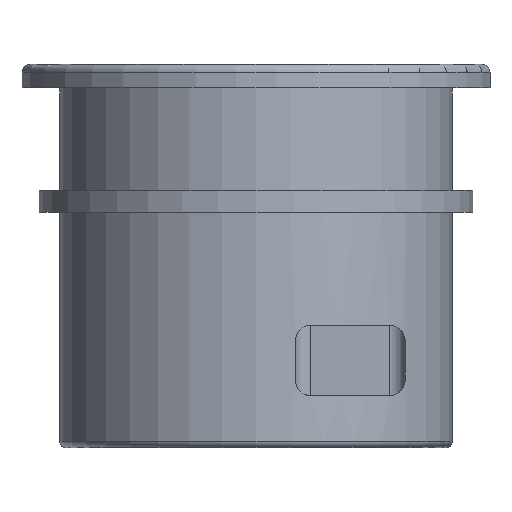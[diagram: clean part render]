
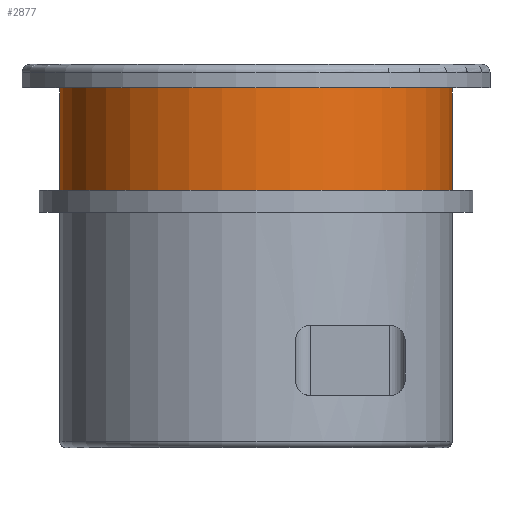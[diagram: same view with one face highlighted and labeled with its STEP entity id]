
A CAD part, front view. The second image highlights one B-rep face of the part: STEP entity #2877.
In plain terms, the highlighted cylindrical face has radius 12.5 mm (diameter 25 mm), a full revolution.
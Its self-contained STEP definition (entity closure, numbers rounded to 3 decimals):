
#1419 = PLANE('',#1420);
#1420 = AXIS2_PLACEMENT_3D('',#1421,#1422,#1423);
#1421 = CARTESIAN_POINT('',(0.,0.,141.));
#1422 = DIRECTION('',(0.,0.,1.));
#1423 = DIRECTION('',(1.,0.,-0.));
#2074 = EDGE_CURVE('',#2075,#2075,#2077,.T.);
#2075 = VERTEX_POINT('',#2076);
#2076 = CARTESIAN_POINT('',(12.5,0.,141.));
#2077 = SURFACE_CURVE('',#2078,(#2083,#2090),.PCURVE_S1.);
#2078 = CIRCLE('',#2079,12.5);
#2079 = AXIS2_PLACEMENT_3D('',#2080,#2081,#2082);
#2080 = CARTESIAN_POINT('',(0.,0.,141.));
#2081 = DIRECTION('',(0.,0.,1.));
#2082 = DIRECTION('',(1.,0.,-0.));
#2083 = PCURVE('',#1419,#2084);
#2084 = DEFINITIONAL_REPRESENTATION('',(#2085),#2089);
#2085 = CIRCLE('',#2086,12.5);
#2086 = AXIS2_PLACEMENT_2D('',#2087,#2088);
#2087 = CARTESIAN_POINT('',(0.,0.));
#2088 = DIRECTION('',(1.,0.));
#2089 = ( GEOMETRIC_REPRESENTATION_CONTEXT(2) 
PARAMETRIC_REPRESENTATION_CONTEXT() REPRESENTATION_CONTEXT('2D SPACE',''
  ) );
#2090 = PCURVE('',#2091,#2096);
#2091 = CYLINDRICAL_SURFACE('',#2092,12.5);
#2092 = AXIS2_PLACEMENT_3D('',#2093,#2094,#2095);
#2093 = CARTESIAN_POINT('',(0.,0.,124.6));
#2094 = DIRECTION('',(0.,0.,1.));
#2095 = DIRECTION('',(1.,0.,-0.));
#2096 = DEFINITIONAL_REPRESENTATION('',(#2097),#2101);
#2097 = LINE('',#2098,#2099);
#2098 = CARTESIAN_POINT('',(0.,16.4));
#2099 = VECTOR('',#2100,1.);
#2100 = DIRECTION('',(1.,0.));
#2101 = ( GEOMETRIC_REPRESENTATION_CONTEXT(2) 
PARAMETRIC_REPRESENTATION_CONTEXT() REPRESENTATION_CONTEXT('2D SPACE',''
  ) );
#2144 = PLANE('',#2145);
#2145 = AXIS2_PLACEMENT_3D('',#2146,#2147,#2148);
#2146 = CARTESIAN_POINT('',(0.,0.,147.5));
#2147 = DIRECTION('',(0.,0.,1.));
#2148 = DIRECTION('',(1.,0.,-0.));
#2877 = ADVANCED_FACE('',(#2878),#2091,.T.);
#2878 = FACE_BOUND('',#2879,.T.);
#2879 = EDGE_LOOP('',(#2880,#2881,#2904,#2926));
#2880 = ORIENTED_EDGE('',*,*,#2074,.T.);
#2881 = ORIENTED_EDGE('',*,*,#2882,.T.);
#2882 = EDGE_CURVE('',#2075,#2883,#2885,.T.);
#2883 = VERTEX_POINT('',#2884);
#2884 = CARTESIAN_POINT('',(12.5,0.,147.5));
#2885 = SEAM_CURVE('',#2886,(#2890,#2897),.PCURVE_S1.);
#2886 = LINE('',#2887,#2888);
#2887 = CARTESIAN_POINT('',(12.5,0.,124.6));
#2888 = VECTOR('',#2889,1.);
#2889 = DIRECTION('',(0.,0.,1.));
#2890 = PCURVE('',#2091,#2891);
#2891 = DEFINITIONAL_REPRESENTATION('',(#2892),#2896);
#2892 = LINE('',#2893,#2894);
#2893 = CARTESIAN_POINT('',(0.,-0.));
#2894 = VECTOR('',#2895,1.);
#2895 = DIRECTION('',(0.,1.));
#2896 = ( GEOMETRIC_REPRESENTATION_CONTEXT(2) 
PARAMETRIC_REPRESENTATION_CONTEXT() REPRESENTATION_CONTEXT('2D SPACE',''
  ) );
#2897 = PCURVE('',#2091,#2898);
#2898 = DEFINITIONAL_REPRESENTATION('',(#2899),#2903);
#2899 = LINE('',#2900,#2901);
#2900 = CARTESIAN_POINT('',(6.283,-0.));
#2901 = VECTOR('',#2902,1.);
#2902 = DIRECTION('',(0.,1.));
#2903 = ( GEOMETRIC_REPRESENTATION_CONTEXT(2) 
PARAMETRIC_REPRESENTATION_CONTEXT() REPRESENTATION_CONTEXT('2D SPACE',''
  ) );
#2904 = ORIENTED_EDGE('',*,*,#2905,.F.);
#2905 = EDGE_CURVE('',#2883,#2883,#2906,.T.);
#2906 = SURFACE_CURVE('',#2907,(#2912,#2919),.PCURVE_S1.);
#2907 = CIRCLE('',#2908,12.5);
#2908 = AXIS2_PLACEMENT_3D('',#2909,#2910,#2911);
#2909 = CARTESIAN_POINT('',(0.,0.,147.5));
#2910 = DIRECTION('',(0.,0.,1.));
#2911 = DIRECTION('',(1.,0.,-0.));
#2912 = PCURVE('',#2091,#2913);
#2913 = DEFINITIONAL_REPRESENTATION('',(#2914),#2918);
#2914 = LINE('',#2915,#2916);
#2915 = CARTESIAN_POINT('',(0.,22.9));
#2916 = VECTOR('',#2917,1.);
#2917 = DIRECTION('',(1.,0.));
#2918 = ( GEOMETRIC_REPRESENTATION_CONTEXT(2) 
PARAMETRIC_REPRESENTATION_CONTEXT() REPRESENTATION_CONTEXT('2D SPACE',''
  ) );
#2919 = PCURVE('',#2144,#2920);
#2920 = DEFINITIONAL_REPRESENTATION('',(#2921),#2925);
#2921 = CIRCLE('',#2922,12.5);
#2922 = AXIS2_PLACEMENT_2D('',#2923,#2924);
#2923 = CARTESIAN_POINT('',(0.,0.));
#2924 = DIRECTION('',(1.,0.));
#2925 = ( GEOMETRIC_REPRESENTATION_CONTEXT(2) 
PARAMETRIC_REPRESENTATION_CONTEXT() REPRESENTATION_CONTEXT('2D SPACE',''
  ) );
#2926 = ORIENTED_EDGE('',*,*,#2882,.F.);
